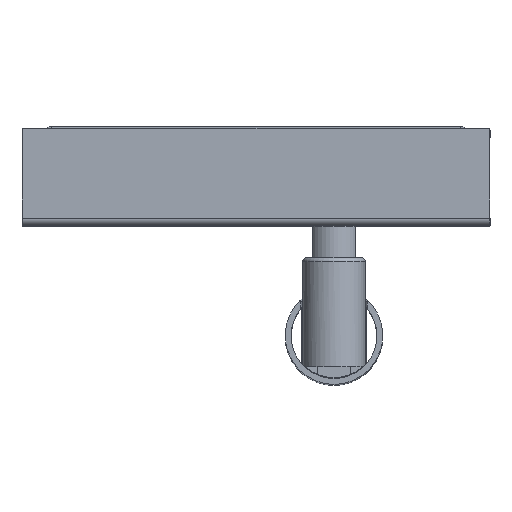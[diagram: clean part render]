
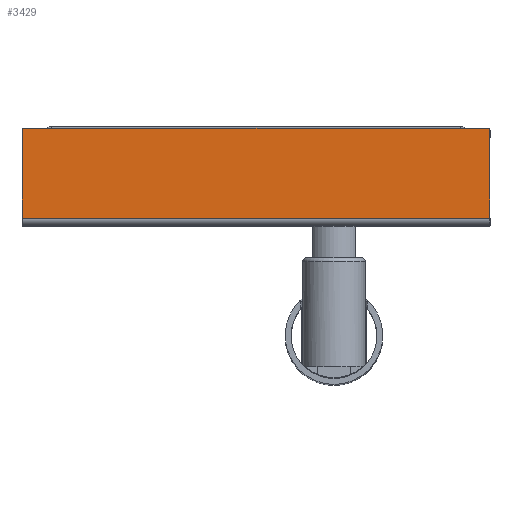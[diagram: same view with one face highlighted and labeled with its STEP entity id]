
A CAD part, top view. The second image highlights one B-rep face of the part: STEP entity #3429.
In plain terms, the highlighted planar face has unit normal (0, 0, 1).
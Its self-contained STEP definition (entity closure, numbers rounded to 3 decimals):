
#217=FACE_OUTER_BOUND('',#417,.T.);
#417=EDGE_LOOP('',(#2438,#2439,#2440,#2441,#2442,#2443));
#665=LINE('',#5297,#961);
#674=LINE('',#5322,#970);
#676=LINE('',#5325,#972);
#680=LINE('',#5340,#976);
#961=VECTOR('',#4299,10.);
#970=VECTOR('',#4324,10.);
#972=VECTOR('',#4328,10.);
#976=VECTOR('',#4346,10.);
#1190=CIRCLE('',#3696,0.5);
#1194=CIRCLE('',#3705,0.5);
#1403=VERTEX_POINT('',#5284);
#1404=VERTEX_POINT('',#5285);
#1408=VERTEX_POINT('',#5295);
#1414=VERTEX_POINT('',#5315);
#1415=VERTEX_POINT('',#5316);
#1416=VERTEX_POINT('',#5321);
#1765=EDGE_CURVE('',#1403,#1404,#1190,.T.);
#1771=EDGE_CURVE('',#1408,#1403,#665,.T.);
#1780=EDGE_CURVE('',#1414,#1415,#1194,.T.);
#1783=EDGE_CURVE('',#1415,#1416,#674,.T.);
#1785=EDGE_CURVE('',#1408,#1416,#676,.T.);
#1793=EDGE_CURVE('',#1404,#1414,#680,.T.);
#2438=ORIENTED_EDGE('',*,*,#1765,.F.);
#2439=ORIENTED_EDGE('',*,*,#1771,.F.);
#2440=ORIENTED_EDGE('',*,*,#1785,.T.);
#2441=ORIENTED_EDGE('',*,*,#1783,.F.);
#2442=ORIENTED_EDGE('',*,*,#1780,.F.);
#2443=ORIENTED_EDGE('',*,*,#1793,.F.);
#3083=PLANE('',#3715);
#3429=ADVANCED_FACE('',(#217),#3083,.F.);
#3696=AXIS2_PLACEMENT_3D('',#5286,#4289,#4290);
#3705=AXIS2_PLACEMENT_3D('',#5317,#4318,#4319);
#3715=AXIS2_PLACEMENT_3D('',#5341,#4347,#4348);
#4289=DIRECTION('center_axis',(0.,0.,
-1.));
#4290=DIRECTION('ref_axis',(-0.707,0.707,0.));
#4299=DIRECTION('',(0.,1.,0.));
#4318=DIRECTION('center_axis',(0.,0.,
-1.));
#4319=DIRECTION('ref_axis',(0.707,0.707,0.));
#4324=DIRECTION('',(0.,-1.,0.));
#4328=DIRECTION('',(1.,0.,0.));
#4346=DIRECTION('',(1.,0.,0.));
#4347=DIRECTION('center_axis',(0.,0.,
-1.));
#4348=DIRECTION('ref_axis',(0.,-1.,0.));
#5284=CARTESIAN_POINT('',(-60.,-1.,20.));
#5285=CARTESIAN_POINT('',(-59.5,-0.5,20.));
#5286=CARTESIAN_POINT('Origin',(-59.5,-1.,20.));
#5295=CARTESIAN_POINT('',(-60.,-23.5,20.));
#5297=CARTESIAN_POINT('',(-60.,-23.5,20.));
#5315=CARTESIAN_POINT('',(59.5,-0.5,20.));
#5316=CARTESIAN_POINT('',(60.,-1.,20.));
#5317=CARTESIAN_POINT('Origin',(59.5,-1.,20.));
#5321=CARTESIAN_POINT('',(60.,-23.5,20.));
#5322=CARTESIAN_POINT('',(60.,-25.762,20.));
#5325=CARTESIAN_POINT('',(0.,-23.5,20.));
#5340=CARTESIAN_POINT('',(-60.,-0.5,20.));
#5341=CARTESIAN_POINT('Origin',(0.,-13.131,
20.));
